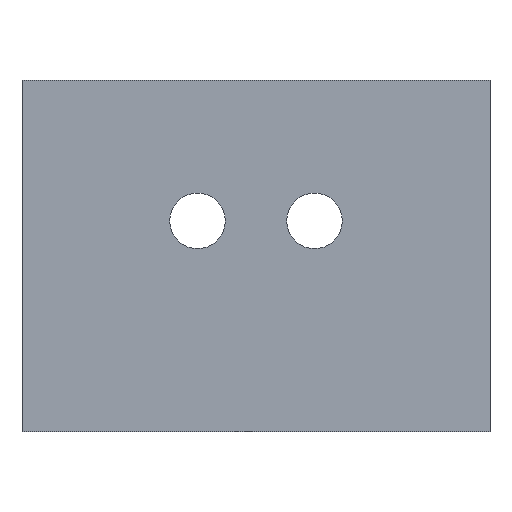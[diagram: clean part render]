
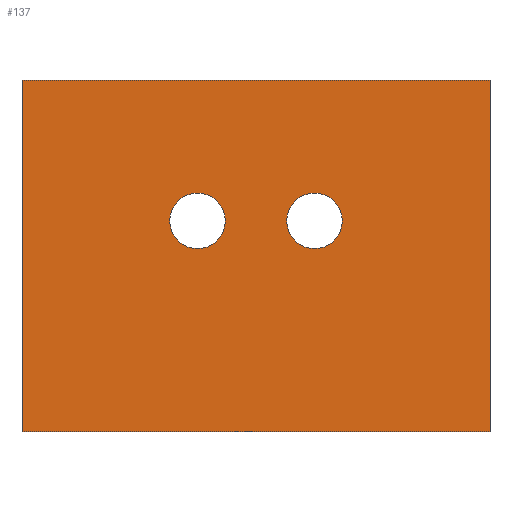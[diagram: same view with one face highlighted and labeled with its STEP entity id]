
A CAD part, front view. The second image highlights one B-rep face of the part: STEP entity #137.
In plain terms, the highlighted planar face has unit normal (0, -1, 0).
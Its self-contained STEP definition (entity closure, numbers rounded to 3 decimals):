
#21 = EDGE_CURVE('',#22,#24,#26,.T.);
#22 = VERTEX_POINT('',#23);
#23 = CARTESIAN_POINT('',(18.,-5.,-10.3));
#24 = VERTEX_POINT('',#25);
#25 = CARTESIAN_POINT('',(18.,-5.,-4.3));
#26 = SURFACE_CURVE('',#27,(#31,#43),.PCURVE_S1.);
#27 = LINE('',#28,#29);
#28 = CARTESIAN_POINT('',(18.,-5.,-10.3));
#29 = VECTOR('',#30,1.);
#30 = DIRECTION('',(0.,0.,1.));
#31 = PCURVE('',#32,#37);
#32 = PLANE('',#33);
#33 = AXIS2_PLACEMENT_3D('',#34,#35,#36);
#34 = CARTESIAN_POINT('',(18.,-5.,-10.3));
#35 = DIRECTION('',(1.,0.,-0.));
#36 = DIRECTION('',(0.,0.,1.));
#37 = DEFINITIONAL_REPRESENTATION('',(#38),#42);
#38 = LINE('',#39,#40);
#39 = CARTESIAN_POINT('',(0.,0.));
#40 = VECTOR('',#41,1.);
#41 = DIRECTION('',(1.,0.));
#42 = ( GEOMETRIC_REPRESENTATION_CONTEXT(2) 
PARAMETRIC_REPRESENTATION_CONTEXT() REPRESENTATION_CONTEXT('2D SPACE',''
  ) );
#43 = PCURVE('',#44,#49);
#44 = PLANE('',#45);
#45 = AXIS2_PLACEMENT_3D('',#46,#47,#48);
#46 = CARTESIAN_POINT('',(18.,-5.,-10.3));
#47 = DIRECTION('',(-0.,1.,0.));
#48 = DIRECTION('',(0.,0.,1.));
#49 = DEFINITIONAL_REPRESENTATION('',(#50),#54);
#50 = LINE('',#51,#52);
#51 = CARTESIAN_POINT('',(0.,0.));
#52 = VECTOR('',#53,1.);
#53 = DIRECTION('',(1.,0.));
#54 = ( GEOMETRIC_REPRESENTATION_CONTEXT(2) 
PARAMETRIC_REPRESENTATION_CONTEXT() REPRESENTATION_CONTEXT('2D SPACE',''
  ) );
#72 = PLANE('',#73);
#73 = AXIS2_PLACEMENT_3D('',#74,#75,#76);
#74 = CARTESIAN_POINT('',(18.,-5.,-10.3));
#75 = DIRECTION('',(0.,0.,1.));
#76 = DIRECTION('',(1.,0.,-0.));
#126 = PLANE('',#127);
#127 = AXIS2_PLACEMENT_3D('',#128,#129,#130);
#128 = CARTESIAN_POINT('',(18.,-5.,-4.3));
#129 = DIRECTION('',(0.,0.,1.));
#130 = DIRECTION('',(1.,0.,-0.));
#137 = ADVANCED_FACE('',(#138,#213,#244),#44,.F.);
#138 = FACE_BOUND('',#139,.F.);
#139 = EDGE_LOOP('',(#140,#163,#164,#187));
#140 = ORIENTED_EDGE('',*,*,#141,.F.);
#141 = EDGE_CURVE('',#22,#142,#144,.T.);
#142 = VERTEX_POINT('',#143);
#143 = CARTESIAN_POINT('',(26.,-5.,-10.3));
#144 = SURFACE_CURVE('',#145,(#149,#156),.PCURVE_S1.);
#145 = LINE('',#146,#147);
#146 = CARTESIAN_POINT('',(18.,-5.,-10.3));
#147 = VECTOR('',#148,1.);
#148 = DIRECTION('',(1.,0.,-0.));
#149 = PCURVE('',#44,#150);
#150 = DEFINITIONAL_REPRESENTATION('',(#151),#155);
#151 = LINE('',#152,#153);
#152 = CARTESIAN_POINT('',(0.,0.));
#153 = VECTOR('',#154,1.);
#154 = DIRECTION('',(0.,1.));
#155 = ( GEOMETRIC_REPRESENTATION_CONTEXT(2) 
PARAMETRIC_REPRESENTATION_CONTEXT() REPRESENTATION_CONTEXT('2D SPACE',''
  ) );
#156 = PCURVE('',#72,#157);
#157 = DEFINITIONAL_REPRESENTATION('',(#158),#162);
#158 = LINE('',#159,#160);
#159 = CARTESIAN_POINT('',(0.,0.));
#160 = VECTOR('',#161,1.);
#161 = DIRECTION('',(1.,0.));
#162 = ( GEOMETRIC_REPRESENTATION_CONTEXT(2) 
PARAMETRIC_REPRESENTATION_CONTEXT() REPRESENTATION_CONTEXT('2D SPACE',''
  ) );
#163 = ORIENTED_EDGE('',*,*,#21,.T.);
#164 = ORIENTED_EDGE('',*,*,#165,.T.);
#165 = EDGE_CURVE('',#24,#166,#168,.T.);
#166 = VERTEX_POINT('',#167);
#167 = CARTESIAN_POINT('',(26.,-5.,-4.3));
#168 = SURFACE_CURVE('',#169,(#173,#180),.PCURVE_S1.);
#169 = LINE('',#170,#171);
#170 = CARTESIAN_POINT('',(18.,-5.,-4.3));
#171 = VECTOR('',#172,1.);
#172 = DIRECTION('',(1.,0.,-0.));
#173 = PCURVE('',#44,#174);
#174 = DEFINITIONAL_REPRESENTATION('',(#175),#179);
#175 = LINE('',#176,#177);
#176 = CARTESIAN_POINT('',(6.,0.));
#177 = VECTOR('',#178,1.);
#178 = DIRECTION('',(0.,1.));
#179 = ( GEOMETRIC_REPRESENTATION_CONTEXT(2) 
PARAMETRIC_REPRESENTATION_CONTEXT() REPRESENTATION_CONTEXT('2D SPACE',''
  ) );
#180 = PCURVE('',#126,#181);
#181 = DEFINITIONAL_REPRESENTATION('',(#182),#186);
#182 = LINE('',#183,#184);
#183 = CARTESIAN_POINT('',(0.,0.));
#184 = VECTOR('',#185,1.);
#185 = DIRECTION('',(1.,0.));
#186 = ( GEOMETRIC_REPRESENTATION_CONTEXT(2) 
PARAMETRIC_REPRESENTATION_CONTEXT() REPRESENTATION_CONTEXT('2D SPACE',''
  ) );
#187 = ORIENTED_EDGE('',*,*,#188,.F.);
#188 = EDGE_CURVE('',#142,#166,#189,.T.);
#189 = SURFACE_CURVE('',#190,(#194,#201),.PCURVE_S1.);
#190 = LINE('',#191,#192);
#191 = CARTESIAN_POINT('',(26.,-5.,-10.3));
#192 = VECTOR('',#193,1.);
#193 = DIRECTION('',(0.,0.,1.));
#194 = PCURVE('',#44,#195);
#195 = DEFINITIONAL_REPRESENTATION('',(#196),#200);
#196 = LINE('',#197,#198);
#197 = CARTESIAN_POINT('',(0.,8.));
#198 = VECTOR('',#199,1.);
#199 = DIRECTION('',(1.,0.));
#200 = ( GEOMETRIC_REPRESENTATION_CONTEXT(2) 
PARAMETRIC_REPRESENTATION_CONTEXT() REPRESENTATION_CONTEXT('2D SPACE',''
  ) );
#201 = PCURVE('',#202,#207);
#202 = PLANE('',#203);
#203 = AXIS2_PLACEMENT_3D('',#204,#205,#206);
#204 = CARTESIAN_POINT('',(26.,-5.,-10.3));
#205 = DIRECTION('',(1.,0.,-0.));
#206 = DIRECTION('',(0.,0.,1.));
#207 = DEFINITIONAL_REPRESENTATION('',(#208),#212);
#208 = LINE('',#209,#210);
#209 = CARTESIAN_POINT('',(0.,0.));
#210 = VECTOR('',#211,1.);
#211 = DIRECTION('',(1.,0.));
#212 = ( GEOMETRIC_REPRESENTATION_CONTEXT(2) 
PARAMETRIC_REPRESENTATION_CONTEXT() REPRESENTATION_CONTEXT('2D SPACE',''
  ) );
#213 = FACE_BOUND('',#214,.F.);
#214 = EDGE_LOOP('',(#215));
#215 = ORIENTED_EDGE('',*,*,#216,.F.);
#216 = EDGE_CURVE('',#217,#217,#219,.T.);
#217 = VERTEX_POINT('',#218);
#218 = CARTESIAN_POINT('',(21.,-5.,-6.225));
#219 = SURFACE_CURVE('',#220,(#225,#232),.PCURVE_S1.);
#220 = CIRCLE('',#221,0.475);
#221 = AXIS2_PLACEMENT_3D('',#222,#223,#224);
#222 = CARTESIAN_POINT('',(21.,-5.,-6.7));
#223 = DIRECTION('',(0.,1.,0.));
#224 = DIRECTION('',(0.,-0.,1.));
#225 = PCURVE('',#44,#226);
#226 = DEFINITIONAL_REPRESENTATION('',(#227),#231);
#227 = CIRCLE('',#228,0.475);
#228 = AXIS2_PLACEMENT_2D('',#229,#230);
#229 = CARTESIAN_POINT('',(3.6,3.));
#230 = DIRECTION('',(1.,0.));
#231 = ( GEOMETRIC_REPRESENTATION_CONTEXT(2) 
PARAMETRIC_REPRESENTATION_CONTEXT() REPRESENTATION_CONTEXT('2D SPACE',''
  ) );
#232 = PCURVE('',#233,#238);
#233 = CYLINDRICAL_SURFACE('',#234,0.475);
#234 = AXIS2_PLACEMENT_3D('',#235,#236,#237);
#235 = CARTESIAN_POINT('',(21.,-5.1,-6.7));
#236 = DIRECTION('',(0.,1.,0.));
#237 = DIRECTION('',(0.,-0.,1.));
#238 = DEFINITIONAL_REPRESENTATION('',(#239),#243);
#239 = LINE('',#240,#241);
#240 = CARTESIAN_POINT('',(0.,0.1));
#241 = VECTOR('',#242,1.);
#242 = DIRECTION('',(1.,0.));
#243 = ( GEOMETRIC_REPRESENTATION_CONTEXT(2) 
PARAMETRIC_REPRESENTATION_CONTEXT() REPRESENTATION_CONTEXT('2D SPACE',''
  ) );
#244 = FACE_BOUND('',#245,.F.);
#245 = EDGE_LOOP('',(#246));
#246 = ORIENTED_EDGE('',*,*,#247,.F.);
#247 = EDGE_CURVE('',#248,#248,#250,.T.);
#248 = VERTEX_POINT('',#249);
#249 = CARTESIAN_POINT('',(23.,-5.,-6.225));
#250 = SURFACE_CURVE('',#251,(#256,#263),.PCURVE_S1.);
#251 = CIRCLE('',#252,0.475);
#252 = AXIS2_PLACEMENT_3D('',#253,#254,#255);
#253 = CARTESIAN_POINT('',(23.,-5.,-6.7));
#254 = DIRECTION('',(0.,1.,0.));
#255 = DIRECTION('',(0.,-0.,1.));
#256 = PCURVE('',#44,#257);
#257 = DEFINITIONAL_REPRESENTATION('',(#258),#262);
#258 = CIRCLE('',#259,0.475);
#259 = AXIS2_PLACEMENT_2D('',#260,#261);
#260 = CARTESIAN_POINT('',(3.6,5.));
#261 = DIRECTION('',(1.,0.));
#262 = ( GEOMETRIC_REPRESENTATION_CONTEXT(2) 
PARAMETRIC_REPRESENTATION_CONTEXT() REPRESENTATION_CONTEXT('2D SPACE',''
  ) );
#263 = PCURVE('',#264,#269);
#264 = CYLINDRICAL_SURFACE('',#265,0.475);
#265 = AXIS2_PLACEMENT_3D('',#266,#267,#268);
#266 = CARTESIAN_POINT('',(23.,-5.1,-6.7));
#267 = DIRECTION('',(0.,1.,0.));
#268 = DIRECTION('',(0.,-0.,1.));
#269 = DEFINITIONAL_REPRESENTATION('',(#270),#274);
#270 = LINE('',#271,#272);
#271 = CARTESIAN_POINT('',(0.,0.1));
#272 = VECTOR('',#273,1.);
#273 = DIRECTION('',(1.,0.));
#274 = ( GEOMETRIC_REPRESENTATION_CONTEXT(2) 
PARAMETRIC_REPRESENTATION_CONTEXT() REPRESENTATION_CONTEXT('2D SPACE',''
  ) );
